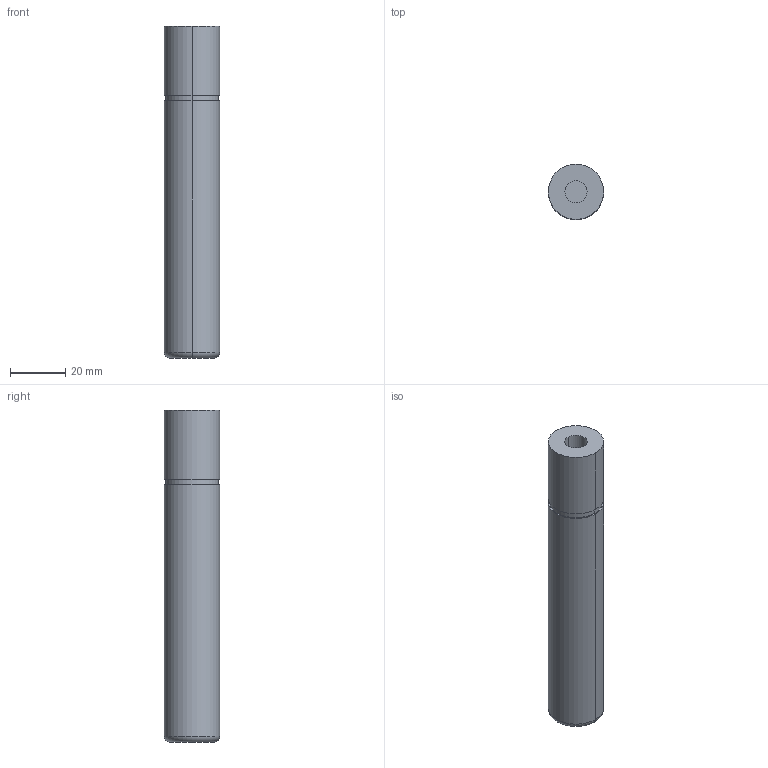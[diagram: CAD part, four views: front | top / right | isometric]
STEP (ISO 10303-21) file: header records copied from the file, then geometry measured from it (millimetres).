
FILE_DESCRIPTION(/* description */ (''),/* implementation_level */ '2;1');
FILE_NAME(/* name */ '3d_sgpn20-120_00283_r00.stp',/* time_stamp */ '2011-01-10T14:11:07+09:00',/* author */ ('MISUMI'),/* organization */ (''),/* preprocessor_version */ 'ST-DEVELOPER v11',/* originating_system */ 'UGS - NX 5.0',/* authorisation */ '');
FILE_SCHEMA (('CONFIG_CONTROL_DESIGN'));
Length unit declared in the file: millimetre
Products named in the file (1): 3d_sgpn20-120_00283_r00
Bounding box: 20 x 20 x 120 mm (x, y, z)
Volume: 36581 mm3; surface area: 8670.1 mm2
Topology: 1 solids, 1 shells, 15 faces, 28 edges, 18 vertices
Faces by surface type: cylinder 8, plane 5, torus 2
Entity records: 472 total; most frequent: DIRECTION 80, CARTESIAN_POINT 62, ORIENTED_EDGE 56, AXIS2_PLACEMENT_3D 36, EDGE_CURVE 28, CIRCLE 20, EDGE_LOOP 18, VERTEX_POINT 18
